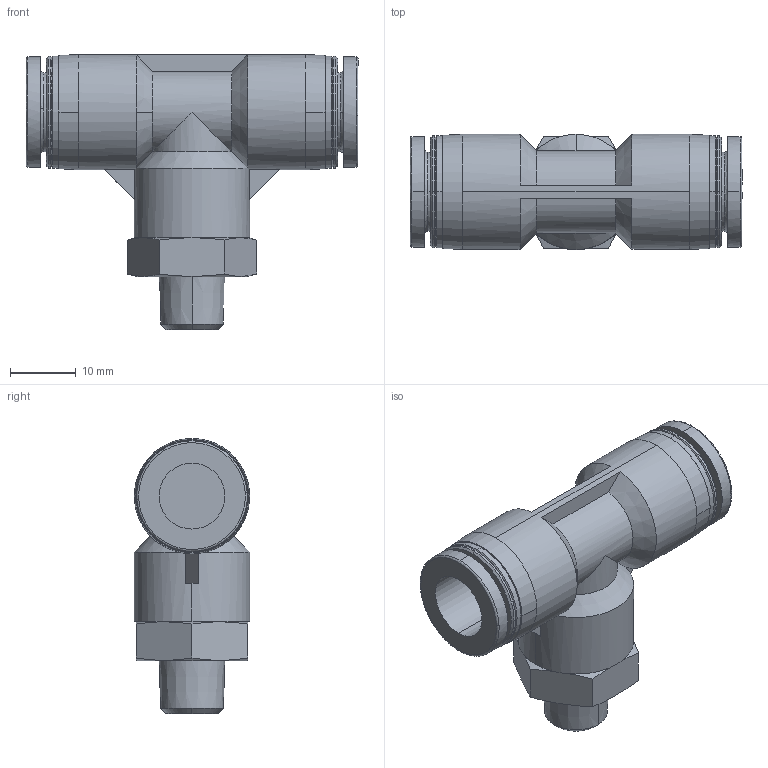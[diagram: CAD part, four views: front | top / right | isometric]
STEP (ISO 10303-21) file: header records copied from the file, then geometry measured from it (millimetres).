
FILE_DESCRIPTION (( 'STEP AP214' ), '1' );
FILE_NAME ('APT10-01.STEP', '2019-12-05T08:35:33', ( '微软用户' ), ( '微软中国' ), 'SwSTEP 2.0', 'SolidWorks 2016', '' );
FILE_SCHEMA (( 'AUTOMOTIVE_DESIGN' ));
Length unit declared in the file: millimetre
Products named in the file (1): APT10-01
Bounding box: 50.4 x 17.5 x 41.75 mm (x, y, z)
Volume: 12072.3 mm3; surface area: 6328.1 mm2
Topology: 1 solids, 1 shells, 100 faces, 251 edges, 163 vertices
Faces by surface type: cone 37, cylinder 28, plane 27, bspline 8
Entity records: 3556 total; most frequent: CARTESIAN_POINT 1171, DIRECTION 502, ORIENTED_EDGE 502, EDGE_CURVE 251, AXIS2_PLACEMENT_3D 212, VERTEX_POINT 163, CIRCLE 119, EDGE_LOOP 110
